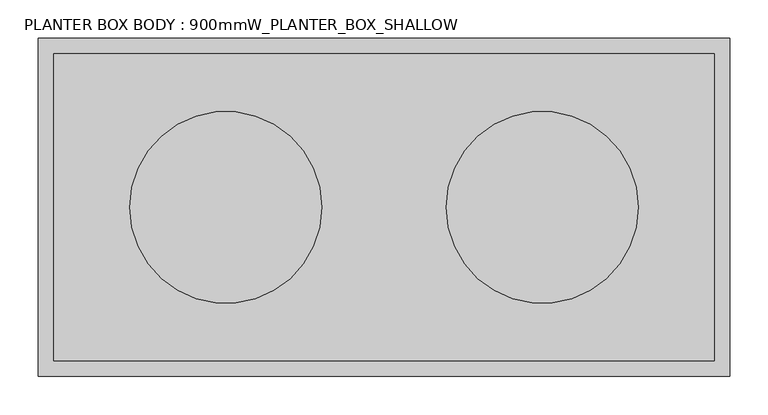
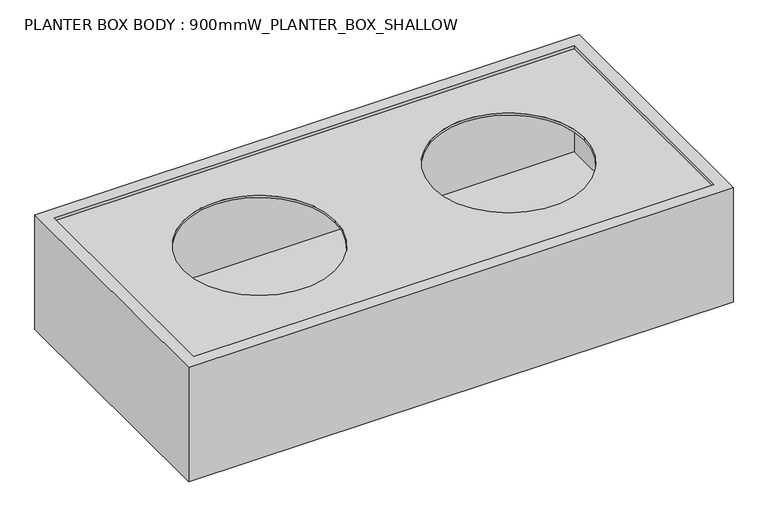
"""IFC4 building model written with IfcOpenShell, lengths in millimetres: furniture geometry, PLANTER BOX BODY : 900mmW_PLANTER_BOX_SHALLOW."""

from ifc_helpers import new_model, si_unit, point, frame, frame_2d, origin, place, context, project, spatial, polyline, circle_curve, trimmed, segment, composite_curve, outline, extrude, source, transform, mapped, element, save


def planter_box_body_900mmw_planter_box_shallow_cbaf9c25(model_context):
    return source(origin(), model_context, "Body", "SweptSolid", [
        extrude(outline(polyline([(450.0, 220.0), (450.0, -220.0), (-450.0, -220.0), (-450.0, 220.0), (450.0, 220.0)]), holes=[polyline([(-430.0, 200.0), (-430.0, -200.0), (430.0, -200.0), (430.0, 200.0), (-430.0, 200.0)])]), frame((0.0, 0.0, 195.0), z_axis=(0.0, 0.0, 1.0), x_axis=(1.0, 0.0, 0.0)), (0.0, 0.0, 1.0), 200.0),
        extrude(outline(polyline([(430.0, 200.0), (430.0, -200.0), (-430.0, -200.0), (-430.0, 200.0), (430.0, 200.0)])), frame((0.0, 0.0, 195.0), z_axis=(0.0, 0.0, 1.0), x_axis=(1.0, 0.0, 0.0)), (0.0, 0.0, 1.0), 15.0),
        extrude(outline(polyline([(430.0, 200.0), (430.0, -200.0), (-430.0, -200.0), (-430.0, 200.0), (430.0, 200.0)]), holes=[composite_curve([segment(trimmed(circle_curve(frame_2d((-206.0, 0.0)), 125.0), [point((-331.0, 0.0))], [point((-81.0, 0.0))], True, "CARTESIAN"), True, "CONTINUOUS"), segment(trimmed(circle_curve(frame_2d((-206.0, 0.0)), 125.0), [point((-81.0, 0.0))], [point((-331.0, 0.0))], True, "CARTESIAN"), True, "CONTINUOUS")], self_intersect=False), composite_curve([segment(trimmed(circle_curve(frame_2d((206.0, 0.0)), 125.0), [point((81.0, 0.0))], [point((331.0, 0.0))], True, "CARTESIAN"), True, "CONTINUOUS"), segment(trimmed(circle_curve(frame_2d((206.0, 0.0)), 125.0), [point((331.0, 0.0))], [point((81.0, 0.0))], True, "CARTESIAN"), True, "CONTINUOUS")], self_intersect=False)]), frame((0.0, 0.0, 386.4363245), z_axis=(0.0, 0.0, 1.0), x_axis=(1.0, 0.0, 0.0)), (0.0, 0.0, 1.0), 3.5636755),
    ])


if __name__ == "__main__":
    model = new_model("IFC4")
    model_context = context("Model", 3, world=origin())
    ifc_project = project(units=[si_unit("LENGTHUNIT", "METRE", prefix="MILLI")], contexts=[model_context])
    site = spatial("IfcSite", under=ifc_project)
    building = spatial("IfcBuilding", under=site)
    placement = place(None, origin())
    planter_box_body_900mmw_planter_box_shallow_shape = planter_box_body_900mmw_planter_box_shallow_cbaf9c25(model_context)
    element("IfcFurniture", 1, ObjectType="PLANTER BOX BODY : 900mmW_PLANTER_BOX_SHALLOW", at=placement, inside=building, context=model_context, shape_type="MappedRepresentation", body=[
        mapped(planter_box_body_900mmw_planter_box_shallow_shape, transform((0.0, 0.0, 0.0), x_axis=(1.0, 0.0, 0.0), y_axis=(0.0, 1.0, 0.0), z_axis=(0.0, 0.0, 1.0))),
    ])
    save(model, "model.ifc")
